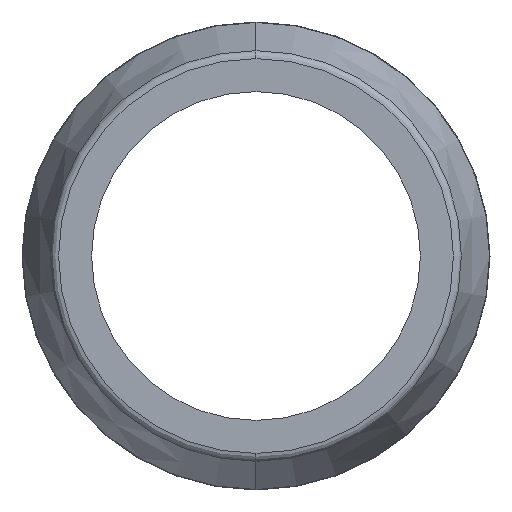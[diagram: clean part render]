
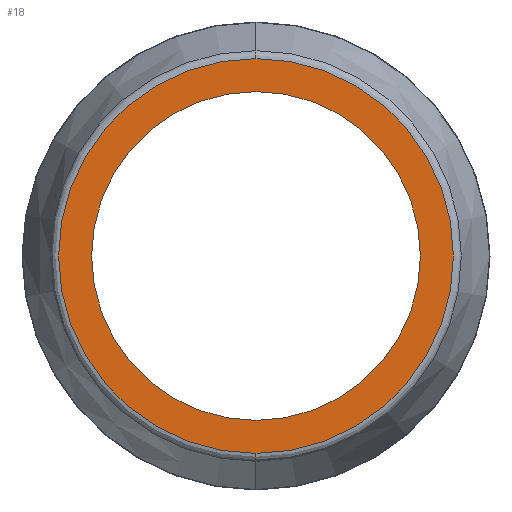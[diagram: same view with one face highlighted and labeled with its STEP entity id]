
A CAD part, left-side view. The second image highlights one B-rep face of the part: STEP entity #18.
In plain terms, the highlighted planar face has unit normal (-1, 0, 0).
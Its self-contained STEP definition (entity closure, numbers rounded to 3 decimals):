
#11 = CARTESIAN_POINT ( 'NONE',  ( 0., 49.276, 0. ) ) ;
#18 = ADVANCED_FACE ( 'NONE', ( #46, #422 ), #411, .T. ) ;
#25 = AXIS2_PLACEMENT_3D ( 'NONE', #124, #164, #83 ) ;
#32 = CARTESIAN_POINT ( 'NONE',  ( 0., 49.276, -4.682 ) ) ;
#46 = FACE_OUTER_BOUND ( 'NONE', #162, .T. ) ;
#83 = DIRECTION ( 'NONE',  ( 0., 0., 1. ) ) ;
#103 = CARTESIAN_POINT ( 'NONE',  ( 0., 49.276, 0. ) ) ;
#109 = CARTESIAN_POINT ( 'NONE',  ( 0., 49.276, 4.682 ) ) ;
#116 = AXIS2_PLACEMENT_3D ( 'NONE', #295, #406, #293 ) ;
#119 = CARTESIAN_POINT ( 'NONE',  ( 0., 49.276, -3.899 ) ) ;
#124 = CARTESIAN_POINT ( 'NONE',  ( 0., 54.826, 0. ) ) ;
#129 = AXIS2_PLACEMENT_3D ( 'NONE', #103, #489, #531 ) ;
#136 = DIRECTION ( 'NONE',  ( 1., 0., 0. ) ) ;
#139 = VERTEX_POINT ( 'NONE', #119 ) ;
#144 = CIRCLE ( 'NONE', #116, 4.682 ) ;
#162 = EDGE_LOOP ( 'NONE', ( #342, #383 ) ) ;
#164 = DIRECTION ( 'NONE',  ( -1., 0., 0. ) ) ;
#166 = CIRCLE ( 'NONE', #246, 3.899 ) ;
#188 = EDGE_CURVE ( 'NONE', #139, #532, #214, .T. ) ;
#194 = DIRECTION ( 'NONE',  ( 1., 0., 0. ) ) ;
#196 = DIRECTION ( 'NONE',  ( 0., 0., 1. ) ) ;
#214 = CIRCLE ( 'NONE', #364, 3.899 ) ;
#231 = EDGE_CURVE ( 'NONE', #366, #443, #540, .T. ) ;
#246 = AXIS2_PLACEMENT_3D ( 'NONE', #11, #136, #312 ) ;
#293 = DIRECTION ( 'NONE',  ( 0., 0., 1. ) ) ;
#295 = CARTESIAN_POINT ( 'NONE',  ( 0., 49.276, 0. ) ) ;
#308 = CARTESIAN_POINT ( 'NONE',  ( 0., 49.276, 3.899 ) ) ;
#309 = EDGE_LOOP ( 'NONE', ( #448, #512 ) ) ;
#312 = DIRECTION ( 'NONE',  ( 0., 0., 1. ) ) ;
#342 = ORIENTED_EDGE ( 'NONE', *, *, #231, .T. ) ;
#364 = AXIS2_PLACEMENT_3D ( 'NONE', #521, #194, #196 ) ;
#366 = VERTEX_POINT ( 'NONE', #109 ) ;
#383 = ORIENTED_EDGE ( 'NONE', *, *, #424, .T. ) ;
#406 = DIRECTION ( 'NONE',  ( -1., 0., 0. ) ) ;
#411 = PLANE ( 'NONE',  #25 ) ;
#422 = FACE_BOUND ( 'NONE', #309, .T. ) ;
#424 = EDGE_CURVE ( 'NONE', #443, #366, #144, .T. ) ;
#443 = VERTEX_POINT ( 'NONE', #32 ) ;
#448 = ORIENTED_EDGE ( 'NONE', *, *, #518, .T. ) ;
#489 = DIRECTION ( 'NONE',  ( -1., 0., 0. ) ) ;
#512 = ORIENTED_EDGE ( 'NONE', *, *, #188, .T. ) ;
#518 = EDGE_CURVE ( 'NONE', #532, #139, #166, .T. ) ;
#521 = CARTESIAN_POINT ( 'NONE',  ( 0., 49.276, 0. ) ) ;
#531 = DIRECTION ( 'NONE',  ( 0., 0., 1. ) ) ;
#532 = VERTEX_POINT ( 'NONE', #308 ) ;
#540 = CIRCLE ( 'NONE', #129, 4.682 ) ;
